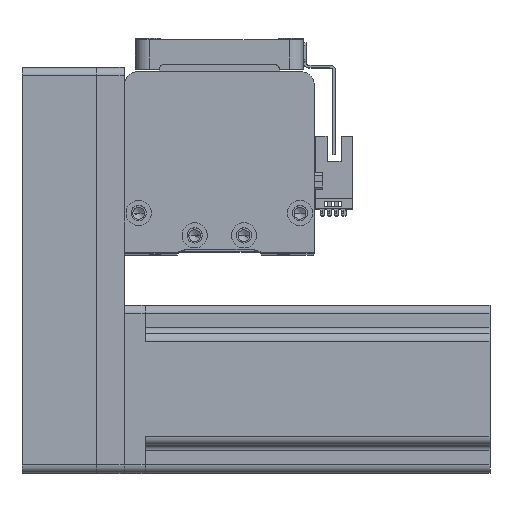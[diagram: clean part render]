
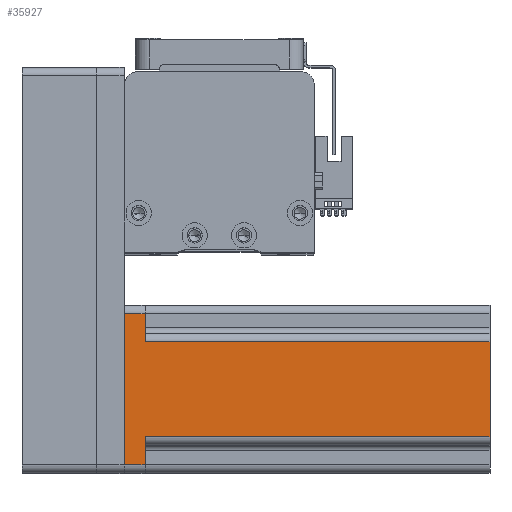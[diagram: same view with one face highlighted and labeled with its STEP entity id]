
A CAD part, top view. The second image highlights one B-rep face of the part: STEP entity #35927.
In plain terms, the highlighted planar face has unit normal (0, 0, 1) as drawn and (0, -1, 0) by its records, which use the part's own axes.
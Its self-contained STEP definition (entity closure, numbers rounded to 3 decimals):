
#129 = VECTOR ( 'NONE', #40669, 1000. ) ;
#171 = CARTESIAN_POINT ( 'NONE',  ( 30., -30., 0. ) ) ;
#2642 = EDGE_LOOP ( 'NONE', ( #23028, #9948, #4909, #39036, #11997, #2776, #28322, #23436 ) ) ;
#2776 = ORIENTED_EDGE ( 'NONE', *, *, #3542, .T. ) ;
#3004 = VECTOR ( 'NONE', #42908, 1000. ) ;
#3411 = LINE ( 'NONE', #20310, #33581 ) ;
#3542 = EDGE_CURVE ( 'NONE', #28221, #29371, #43798, .T. ) ;
#4732 = DIRECTION ( 'NONE',  ( 0., 0., 1. ) ) ;
#4909 = ORIENTED_EDGE ( 'NONE', *, *, #34859, .F. ) ;
#6231 = VERTEX_POINT ( 'NONE', #34749 ) ;
#6367 = CARTESIAN_POINT ( 'NONE',  ( -20., -30., 7.5 ) ) ;
#7039 = LINE ( 'NONE', #6367, #22903 ) ;
#7486 = LINE ( 'NONE', #41491, #15411 ) ;
#9786 = DIRECTION ( 'NONE',  ( 1., 0., 0. ) ) ;
#9841 = EDGE_CURVE ( 'NONE', #12452, #28221, #27070, .T. ) ;
#9948 = ORIENTED_EDGE ( 'NONE', *, *, #20311, .T. ) ;
#10084 = LINE ( 'NONE', #34895, #35974 ) ;
#10833 = CARTESIAN_POINT ( 'NONE',  ( -27., -30., 0. ) ) ;
#10855 = DIRECTION ( 'NONE',  ( 0., 1., 0. ) ) ;
#11997 = ORIENTED_EDGE ( 'NONE', *, *, #9841, .T. ) ;
#12452 = VERTEX_POINT ( 'NONE', #10833 ) ;
#13548 = EDGE_CURVE ( 'NONE', #38940, #30241, #7486, .T. ) ;
#14784 = CARTESIAN_POINT ( 'NONE',  ( -17., -30., 130.7 ) ) ;
#15411 = VECTOR ( 'NONE', #21212, 1000. ) ;
#17253 = CARTESIAN_POINT ( 'NONE',  ( 17., -30., 7.5 ) ) ;
#17290 = EDGE_CURVE ( 'NONE', #29371, #40943, #22045, .T. ) ;
#18662 = CARTESIAN_POINT ( 'NONE',  ( -27., -30., 130.7 ) ) ;
#20192 = AXIS2_PLACEMENT_3D ( 'NONE', #31111, #10855, #34515 ) ;
#20310 = CARTESIAN_POINT ( 'NONE',  ( -17., -30., 130.7 ) ) ;
#20311 = EDGE_CURVE ( 'NONE', #38940, #43843, #3411, .T. ) ;
#21212 = DIRECTION ( 'NONE',  ( 1., 0., 0. ) ) ;
#21771 = CARTESIAN_POINT ( 'NONE',  ( 27., -30., 0. ) ) ;
#22045 = LINE ( 'NONE', #39543, #3004 ) ;
#22903 = VECTOR ( 'NONE', #9786, 1000. ) ;
#23028 = ORIENTED_EDGE ( 'NONE', *, *, #13548, .F. ) ;
#23254 = CARTESIAN_POINT ( 'NONE',  ( 17., -30., 130.7 ) ) ;
#23386 = LINE ( 'NONE', #18662, #31305 ) ;
#23430 = CARTESIAN_POINT ( 'NONE',  ( -17., -30., 7.5 ) ) ;
#23436 = ORIENTED_EDGE ( 'NONE', *, *, #26468, .T. ) ;
#26415 = DIRECTION ( 'NONE',  ( 0., 0., -1. ) ) ;
#26468 = EDGE_CURVE ( 'NONE', #40943, #30241, #10084, .T. ) ;
#27070 = LINE ( 'NONE', #171, #129 ) ;
#28221 = VERTEX_POINT ( 'NONE', #21771 ) ;
#28231 = CARTESIAN_POINT ( 'NONE',  ( 27., -30., 130.7 ) ) ;
#28322 = ORIENTED_EDGE ( 'NONE', *, *, #17290, .T. ) ;
#28783 = CARTESIAN_POINT ( 'NONE',  ( 27., -30., 7.5 ) ) ;
#29371 = VERTEX_POINT ( 'NONE', #28783 ) ;
#30241 = VERTEX_POINT ( 'NONE', #23254 ) ;
#31111 = CARTESIAN_POINT ( 'NONE',  ( 30., -30., 130.7 ) ) ;
#31305 = VECTOR ( 'NONE', #38980, 1000. ) ;
#33581 = VECTOR ( 'NONE', #26415, 1000. ) ;
#34515 = DIRECTION ( 'NONE',  ( -1., 0., 0. ) ) ;
#34749 = CARTESIAN_POINT ( 'NONE',  ( -27., -30., 7.5 ) ) ;
#34834 = VECTOR ( 'NONE', #4732, 1000. ) ;
#34859 = EDGE_CURVE ( 'NONE', #6231, #43843, #7039, .T. ) ;
#34895 = CARTESIAN_POINT ( 'NONE',  ( 17., -30., 130.7 ) ) ;
#35927 = ADVANCED_FACE ( 'NONE', ( #43384 ), #37781, .F. ) ;
#35974 = VECTOR ( 'NONE', #38327, 1000. ) ;
#37781 = PLANE ( 'NONE',  #20192 ) ;
#38327 = DIRECTION ( 'NONE',  ( 0., 0., 1. ) ) ;
#38940 = VERTEX_POINT ( 'NONE', #14784 ) ;
#38980 = DIRECTION ( 'NONE',  ( 0., 0., -1. ) ) ;
#39036 = ORIENTED_EDGE ( 'NONE', *, *, #39448, .T. ) ;
#39448 = EDGE_CURVE ( 'NONE', #6231, #12452, #23386, .T. ) ;
#39543 = CARTESIAN_POINT ( 'NONE',  ( 20., -30., 7.5 ) ) ;
#40669 = DIRECTION ( 'NONE',  ( 1., 0., 0. ) ) ;
#40943 = VERTEX_POINT ( 'NONE', #17253 ) ;
#41491 = CARTESIAN_POINT ( 'NONE',  ( 30., -30., 130.7 ) ) ;
#42908 = DIRECTION ( 'NONE',  ( -1., 0., 0. ) ) ;
#43384 = FACE_OUTER_BOUND ( 'NONE', #2642, .T. ) ;
#43798 = LINE ( 'NONE', #28231, #34834 ) ;
#43843 = VERTEX_POINT ( 'NONE', #23430 ) ;
